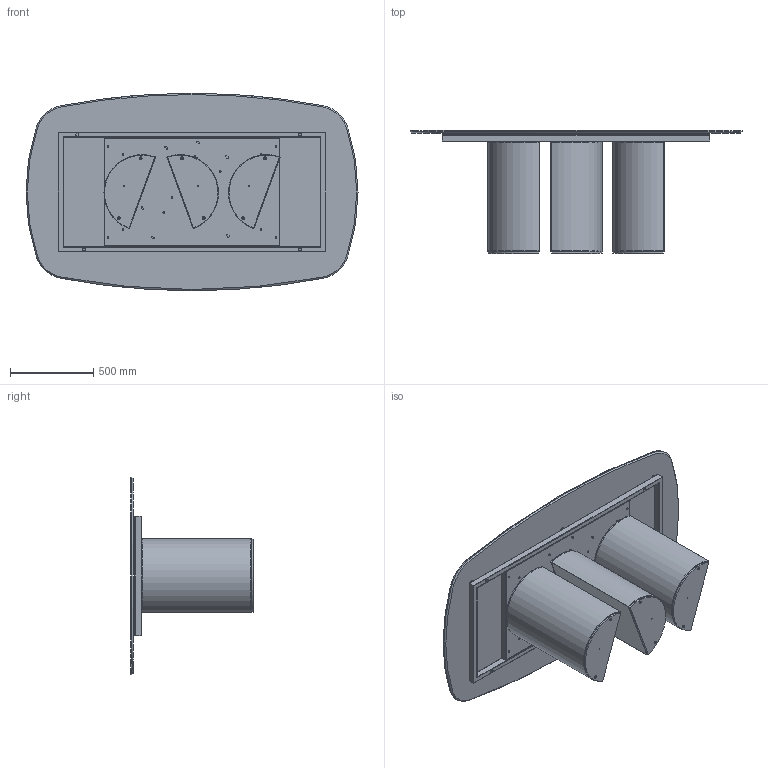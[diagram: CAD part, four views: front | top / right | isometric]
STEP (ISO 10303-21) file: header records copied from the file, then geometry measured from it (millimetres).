
FILE_DESCRIPTION (( 'STEP AP203' ), '1' );
FILE_NAME ('PL40C.STEP', '2024-08-07T13:53:42', ( '' ), ( '' ), 'SwSTEP 2.0', 'SolidWorks 2022', '' );
FILE_SCHEMA (( 'CONFIG_CONTROL_DESIGN' ));
Length unit declared in the file: millimetre
Products named in the file (14): TTAV0601_01-00-STRUTTURA X TAVOLI PLAI ONDA NOA 240; PL40C; rondella M8_8X24; M8xXXmm_M8x20mm; PLA000000ZOC-01-PLAI ZOCCOLO DELLA BASE; TTAV0601-00-TELAIO X TAVOLI PLAI ONDA NOA 240cm_TTAV06; Assieme Basamento PLAI_Basamento per tavoli; K4XCMXX-00-Piani Sagomati in ceramica_2000 x 1190; PLA000000BAS-00-PLAI BASE GREZZA; 434070-00-PIEDINO TPV GOMMA NERO D. 30x8max18_filo estetico; COLLO TELAIO UNIVERSALE TTAV0601 CON FERRAMENTA_FERRAMENTA MTG TOP CRISTALLO VERNICIATO-CERAMICA; M8xXXmm_hex_M8X20mm; M8xXXmm_hex_M8X60mm; TTAV0601_02-00-VASSOIO TAVOLI PLAI ONDA NOA 240
Assembly tree (30 placements, depth 4):
  PL40C
    COLLO TELAIO UNIVERSALE TTAV0601 CON FERRAMENTA_FERRAMENTA MTG TOP CRISTALLO VERNICIATO-CERAMICA
      TTAV0601-00-TELAIO X TAVOLI PLAI ONDA NOA 240cm_TTAV06
        TTAV0601_02-00-VASSOIO TAVOLI PLAI ONDA NOA 240
        TTAV0601_01-00-STRUTTURA X TAVOLI PLAI ONDA NOA 240
      434070-00-PIEDINO TPV GOMMA NERO D. 30x8max18_filo estetico  x6
    Assieme Basamento PLAI_Basamento per tavoli  x3
      PLA000000BAS-00-PLAI BASE GREZZA
      PLA000000ZOC-01-PLAI ZOCCOLO DELLA BASE
      M8xXXmm_hex_M8X60mm
      M8xXXmm_hex_M8X20mm
    rondella M8_8X24  x6
    M8xXXmm_M8x20mm  x6
    K4XCMXX-00-Piani Sagomati in ceramica_2000 x 1190
Bounding box: 2000 x 740 x 1190 mm (x, y, z)
Volume: 46988960.9 mm3; surface area: 17309036.2 mm2
Topology: 49 solids, 49 shells, 1137 faces, 2547 edges, 1490 vertices
Faces by surface type: plane 469, cylinder 343, cone 209, torus 108, sphere 8
Entity records: 19300 total; most frequent: DIRECTION 3222, CARTESIAN_POINT 2980, ORIENTED_EDGE 2818, EDGE_CURVE 1409, AXIS2_PLACEMENT_3D 1206, VERTEX_POINT 846, VECTOR 810, LINE 810
